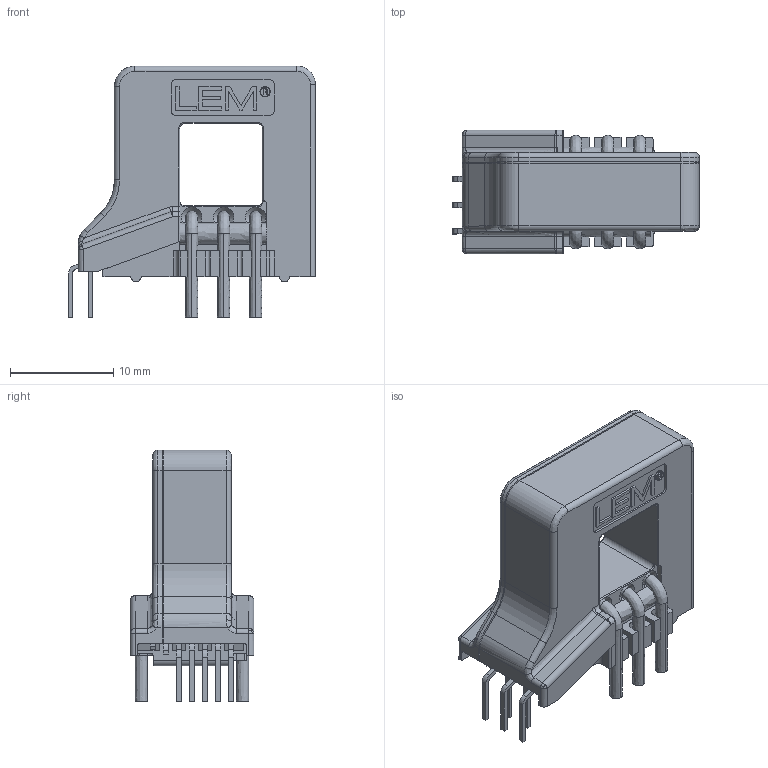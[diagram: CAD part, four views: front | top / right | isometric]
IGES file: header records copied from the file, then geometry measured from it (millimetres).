
Start section: Elysium IGES Interface
Global section: file name: 90HC:\Documents and Settings\tah\デスクトップ\BLACK_BOX\HO_P\HO_P xxx-P\HO_P xxx-P series.igs; native system: CoCreate Modeling 17.00A  17-Jun-2010; preprocessor: CoCreate IGES_3D V2.2; author: Unknown; organization: Unknown; date: 20140304.092821; units: millimetre
Bounding box: 23.94 x 12 x 24.4 mm (x, y, z)
Volume: 2866 mm3; surface area: 2158.4 mm2
Topology: 1 solids, 1 shells, 476 faces, 1323 edges, 847 vertices
Faces by surface type: bspline 476
